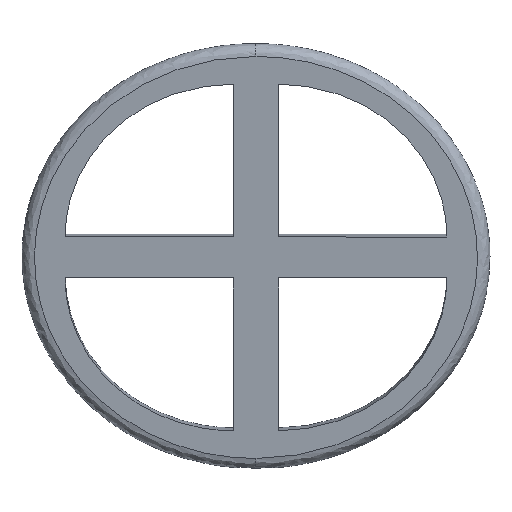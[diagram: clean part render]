
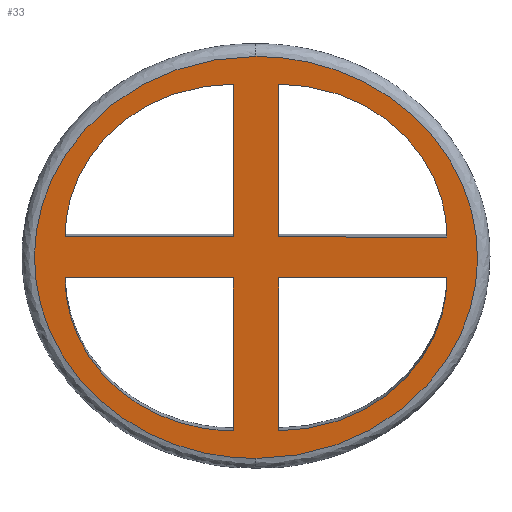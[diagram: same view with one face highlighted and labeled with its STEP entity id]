
A CAD part, front view. The second image highlights one B-rep face of the part: STEP entity #33.
In plain terms, the highlighted planar face has unit normal (-0.001, -0.994, -0.107).
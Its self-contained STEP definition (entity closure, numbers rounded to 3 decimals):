
#24=FACE_BOUND('',#70,.T.);
#25=FACE_BOUND('',#71,.T.);
#26=FACE_BOUND('',#72,.T.);
#27=FACE_BOUND('',#73,.T.);
#33=ADVANCED_FACE('',(#51,#24,#25,#26,#27),#308,.T.);
#51=FACE_OUTER_BOUND('',#69,.T.);
#69=EDGE_LOOP('',(#98,#99));
#70=EDGE_LOOP('',(#100,#101,#102));
#71=EDGE_LOOP('',(#103,#104,#105));
#72=EDGE_LOOP('',(#106,#107,#108));
#73=EDGE_LOOP('',(#109,#110,#111));
#98=ORIENTED_EDGE('',*,*,#197,.T.);
#99=ORIENTED_EDGE('',*,*,#231,.T.);
#100=ORIENTED_EDGE('',*,*,#204,.F.);
#101=ORIENTED_EDGE('',*,*,#189,.F.);
#102=ORIENTED_EDGE('',*,*,#188,.F.);
#103=ORIENTED_EDGE('',*,*,#190,.F.);
#104=ORIENTED_EDGE('',*,*,#208,.F.);
#105=ORIENTED_EDGE('',*,*,#191,.F.);
#106=ORIENTED_EDGE('',*,*,#192,.F.);
#107=ORIENTED_EDGE('',*,*,#215,.F.);
#108=ORIENTED_EDGE('',*,*,#193,.F.);
#109=ORIENTED_EDGE('',*,*,#225,.T.);
#110=ORIENTED_EDGE('',*,*,#194,.T.);
#111=ORIENTED_EDGE('',*,*,#195,.T.);
#188=EDGE_CURVE('',#279,#280,#232,.T.);
#189=EDGE_CURVE('',#280,#281,#233,.T.);
#190=EDGE_CURVE('',#283,#284,#234,.T.);
#191=EDGE_CURVE('',#284,#282,#235,.T.);
#192=EDGE_CURVE('',#286,#287,#236,.T.);
#193=EDGE_CURVE('',#287,#285,#237,.T.);
#194=EDGE_CURVE('',#288,#289,#238,.T.);
#195=EDGE_CURVE('',#289,#290,#239,.T.);
#197=EDGE_CURVE('',#303,#307,#259,.T.);
#204=EDGE_CURVE('',#281,#279,#261,.T.);
#208=EDGE_CURVE('',#282,#283,#265,.T.);
#215=EDGE_CURVE('',#285,#286,#269,.T.);
#225=EDGE_CURVE('',#290,#288,#271,.T.);
#231=EDGE_CURVE('',#307,#303,#277,.T.);
#232=B_SPLINE_CURVE_WITH_KNOTS('',1,(#1213,#1214),.UNSPECIFIED.,.F.,.F.,
(2,2),(6.283,6.783),.UNSPECIFIED.);
#233=B_SPLINE_CURVE_WITH_KNOTS('',1,(#1215,#1216),.UNSPECIFIED.,.F.,.F.,
(2,2),(6.783,7.783),.UNSPECIFIED.);
#234=B_SPLINE_CURVE_WITH_KNOTS('',1,(#1217,#1218),.UNSPECIFIED.,.F.,.F.,
(2,2),(5.142,6.142),.UNSPECIFIED.);
#235=B_SPLINE_CURVE_WITH_KNOTS('',1,(#1219,#1220),.UNSPECIFIED.,.F.,.F.,
(2,2),(6.142,6.642),.UNSPECIFIED.);
#236=B_SPLINE_CURVE_WITH_KNOTS('',1,(#1221,#1222),.UNSPECIFIED.,.F.,.F.,
(2,2),(6.142,7.142),.UNSPECIFIED.);
#237=B_SPLINE_CURVE_WITH_KNOTS('',1,(#1223,#1224),.UNSPECIFIED.,.F.,.F.,
(2,2),(7.142,7.642),.UNSPECIFIED.);
#238=B_SPLINE_CURVE_WITH_KNOTS('',1,(#1225,#1226),.UNSPECIFIED.,.F.,.F.,
(2,2),(0.,1.),.UNSPECIFIED.);
#239=B_SPLINE_CURVE_WITH_KNOTS('',1,(#1227,#1228),.UNSPECIFIED.,.F.,.F.,
(2,2),(1.,1.5),.UNSPECIFIED.);
#259=(
BOUNDED_CURVE()
B_SPLINE_CURVE(2,(#1234,#1235,#1236,#1237,#1238),.UNSPECIFIED.,.F.,.F.)
B_SPLINE_CURVE_WITH_KNOTS((3,2,3),(0.,1.571,3.142),
 .UNSPECIFIED.)
CURVE()
GEOMETRIC_REPRESENTATION_ITEM()
RATIONAL_B_SPLINE_CURVE((1.,0.707,1.,0.707,1.))
REPRESENTATION_ITEM('')
);
#261=(
BOUNDED_CURVE()
B_SPLINE_CURVE(2,(#1252,#1253,#1254),.UNSPECIFIED.,.F.,.F.)
B_SPLINE_CURVE_WITH_KNOTS((3,3),(7.783,9.354),
 .UNSPECIFIED.)
CURVE()
GEOMETRIC_REPRESENTATION_ITEM()
RATIONAL_B_SPLINE_CURVE((1.,0.707,1.))
REPRESENTATION_ITEM('')
);
#265=(
BOUNDED_CURVE()
B_SPLINE_CURVE(2,(#1262,#1263,#1264),.UNSPECIFIED.,.F.,.F.)
B_SPLINE_CURVE_WITH_KNOTS((3,3),(3.571,5.142),
 .UNSPECIFIED.)
CURVE()
GEOMETRIC_REPRESENTATION_ITEM()
RATIONAL_B_SPLINE_CURVE((1.,0.707,1.))
REPRESENTATION_ITEM('')
);
#269=(
BOUNDED_CURVE()
B_SPLINE_CURVE(2,(#1278,#1279,#1280),.UNSPECIFIED.,.F.,.F.)
B_SPLINE_CURVE_WITH_KNOTS((3,3),(4.571,6.142),
 .UNSPECIFIED.)
CURVE()
GEOMETRIC_REPRESENTATION_ITEM()
RATIONAL_B_SPLINE_CURVE((1.,0.707,1.))
REPRESENTATION_ITEM('')
);
#271=(
BOUNDED_CURVE()
B_SPLINE_CURVE(2,(#1300,#1301,#1302),.UNSPECIFIED.,.F.,.F.)
B_SPLINE_CURVE_WITH_KNOTS((3,3),(1.5,3.071),.UNSPECIFIED.)
CURVE()
GEOMETRIC_REPRESENTATION_ITEM()
RATIONAL_B_SPLINE_CURVE((1.,0.707,1.))
REPRESENTATION_ITEM('')
);
#277=(
BOUNDED_CURVE()
B_SPLINE_CURVE(2,(#1371,#1372,#1373,#1374,#1375),.UNSPECIFIED.,.F.,.F.)
B_SPLINE_CURVE_WITH_KNOTS((3,2,3),(3.142,4.712,6.283),
 .UNSPECIFIED.)
CURVE()
GEOMETRIC_REPRESENTATION_ITEM()
RATIONAL_B_SPLINE_CURVE((1.,0.707,1.,0.707,1.))
REPRESENTATION_ITEM('')
);
#279=VERTEX_POINT('',#1127);
#280=VERTEX_POINT('',#1128);
#281=VERTEX_POINT('',#1129);
#282=VERTEX_POINT('',#1130);
#283=VERTEX_POINT('',#1131);
#284=VERTEX_POINT('',#1132);
#285=VERTEX_POINT('',#1133);
#286=VERTEX_POINT('',#1134);
#287=VERTEX_POINT('',#1135);
#288=VERTEX_POINT('',#1136);
#289=VERTEX_POINT('',#1137);
#290=VERTEX_POINT('',#1138);
#303=VERTEX_POINT('',#1151);
#307=VERTEX_POINT('',#1155);
#308=PLANE('',#346);
#346=AXIS2_PLACEMENT_3D('',#552,#359,$);
#359=DIRECTION('',(-0.001,-0.994,-0.107));
#552=CARTESIAN_POINT('',(-24.86,-92.265,-12.748));
#1127=CARTESIAN_POINT('',(-2.571,-92.668,-9.267));
#1128=CARTESIAN_POINT('',(-2.571,-94.473,7.478));
#1129=CARTESIAN_POINT('',(-21.021,-94.451,7.48));
#1130=CARTESIAN_POINT('',(-2.571,-96.762,28.711));
#1131=CARTESIAN_POINT('',(-21.021,-94.935,11.968));
#1132=CARTESIAN_POINT('',(-2.571,-94.957,11.966));
#1133=CARTESIAN_POINT('',(2.375,-92.674,-9.268));
#1134=CARTESIAN_POINT('',(20.825,-94.501,7.475));
#1135=CARTESIAN_POINT('',(2.375,-94.479,7.477));
#1136=CARTESIAN_POINT('',(20.825,-94.985,11.963));
#1137=CARTESIAN_POINT('',(2.375,-94.963,11.965));
#1138=CARTESIAN_POINT('',(2.375,-96.768,28.71));
#1151=CARTESIAN_POINT('',(-0.098,-92.342,-12.311));
#1155=CARTESIAN_POINT('',(-0.098,-97.093,31.754));
#1213=CARTESIAN_POINT('',(-2.571,-92.668,-9.267));
#1214=CARTESIAN_POINT('',(-2.571,-94.473,7.478));
#1215=CARTESIAN_POINT('',(-2.571,-94.473,7.478));
#1216=CARTESIAN_POINT('',(-21.021,-94.451,7.48));
#1217=CARTESIAN_POINT('',(-21.021,-94.935,11.968));
#1218=CARTESIAN_POINT('',(-2.571,-94.957,11.966));
#1219=CARTESIAN_POINT('',(-2.571,-94.957,11.966));
#1220=CARTESIAN_POINT('',(-2.571,-96.762,28.711));
#1221=CARTESIAN_POINT('',(20.825,-94.501,7.475));
#1222=CARTESIAN_POINT('',(2.375,-94.479,7.477));
#1223=CARTESIAN_POINT('',(2.375,-94.479,7.477));
#1224=CARTESIAN_POINT('',(2.375,-92.674,-9.268));
#1225=CARTESIAN_POINT('',(20.825,-94.985,11.963));
#1226=CARTESIAN_POINT('',(2.375,-94.963,11.965));
#1227=CARTESIAN_POINT('',(2.375,-94.963,11.965));
#1228=CARTESIAN_POINT('',(2.375,-96.768,28.71));
#1234=CARTESIAN_POINT('',(-0.098,-92.342,-12.311));
#1235=CARTESIAN_POINT('',(24.178,-92.372,-12.314));
#1236=CARTESIAN_POINT('',(24.178,-94.747,9.718));
#1237=CARTESIAN_POINT('',(24.178,-97.123,31.751));
#1238=CARTESIAN_POINT('',(-0.098,-97.093,31.754));
#1252=CARTESIAN_POINT('',(-21.021,-94.451,7.48));
#1253=CARTESIAN_POINT('',(-21.021,-92.645,-9.265));
#1254=CARTESIAN_POINT('',(-2.571,-92.668,-9.267));
#1262=CARTESIAN_POINT('',(-2.571,-96.762,28.711));
#1263=CARTESIAN_POINT('',(-21.021,-96.74,28.713));
#1264=CARTESIAN_POINT('',(-21.021,-94.935,11.968));
#1278=CARTESIAN_POINT('',(2.375,-92.674,-9.268));
#1279=CARTESIAN_POINT('',(20.825,-92.696,-9.27));
#1280=CARTESIAN_POINT('',(20.825,-94.501,7.475));
#1300=CARTESIAN_POINT('',(2.375,-96.768,28.71));
#1301=CARTESIAN_POINT('',(20.825,-96.79,28.708));
#1302=CARTESIAN_POINT('',(20.825,-94.985,11.963));
#1371=CARTESIAN_POINT('',(-0.098,-97.093,31.754));
#1372=CARTESIAN_POINT('',(-24.375,-97.064,31.757));
#1373=CARTESIAN_POINT('',(-24.375,-94.689,9.725));
#1374=CARTESIAN_POINT('',(-24.375,-92.313,-12.308));
#1375=CARTESIAN_POINT('',(-0.098,-92.342,-12.311));
